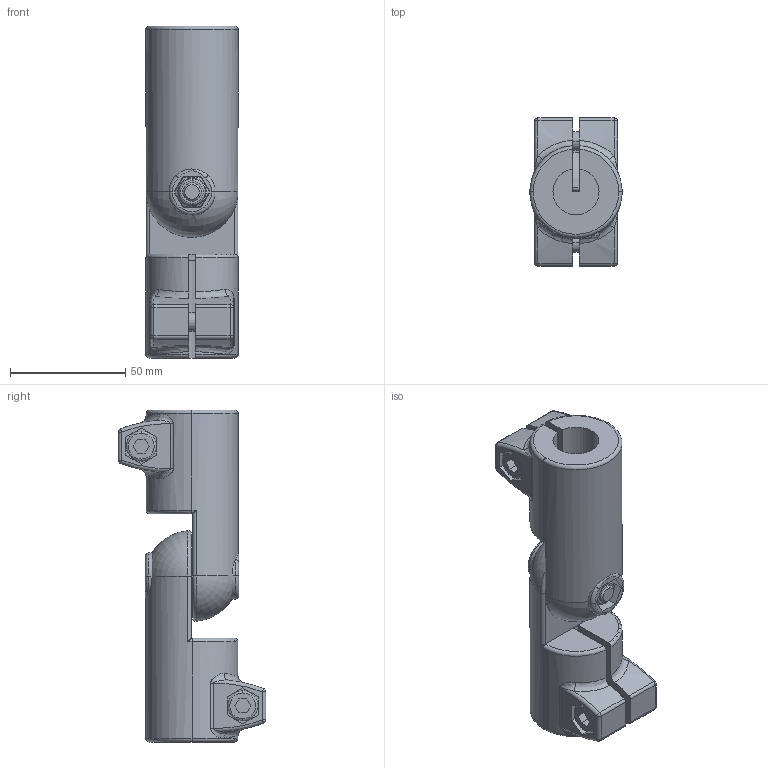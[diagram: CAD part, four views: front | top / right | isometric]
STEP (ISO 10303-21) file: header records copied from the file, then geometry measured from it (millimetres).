
FILE_DESCRIPTION (( 'STEP AP214' ), '1' );
FILE_NAME ('286-B20-B30-T-2-SW.step', '2021-12-02T12:14:18', ( '' ), ( '' ), 'SwSTEP 2.0', 'SolidWorks 2019', '' );
FILE_SCHEMA (( 'AUTOMOTIVE_DESIGN' ));
Length unit declared in the file: millimetre
Products named in the file (3): 286-B20-B30-T-2-SW; WB276^WB286_B20-IV-2-SW; WB276_1^WB286_B30-AV-2-SW
Assembly tree (2 placements, depth 2):
  286-B20-B30-T-2-SW
    WB276^WB286_B20-IV-2-SW
    WB276_1^WB286_B30-AV-2-SW
Bounding box: 40 x 64 x 144 mm (x, y, z)
Volume: 132862.4 mm3; surface area: 43675.6 mm2
Topology: 2 solids, 2 shells, 514 faces, 1304 edges, 814 vertices
Faces by surface type: plane 304, cylinder 108, torus 50, cone 24, bspline 20, sphere 8
Entity records: 19158 total; most frequent: CARTESIAN_POINT 5891, ORIENTED_EDGE 2592, DIRECTION 2422, EDGE_CURVE 1296, AXIS2_PLACEMENT_3D 931, VERTEX_POINT 814, VECTOR 560, LINE 560
